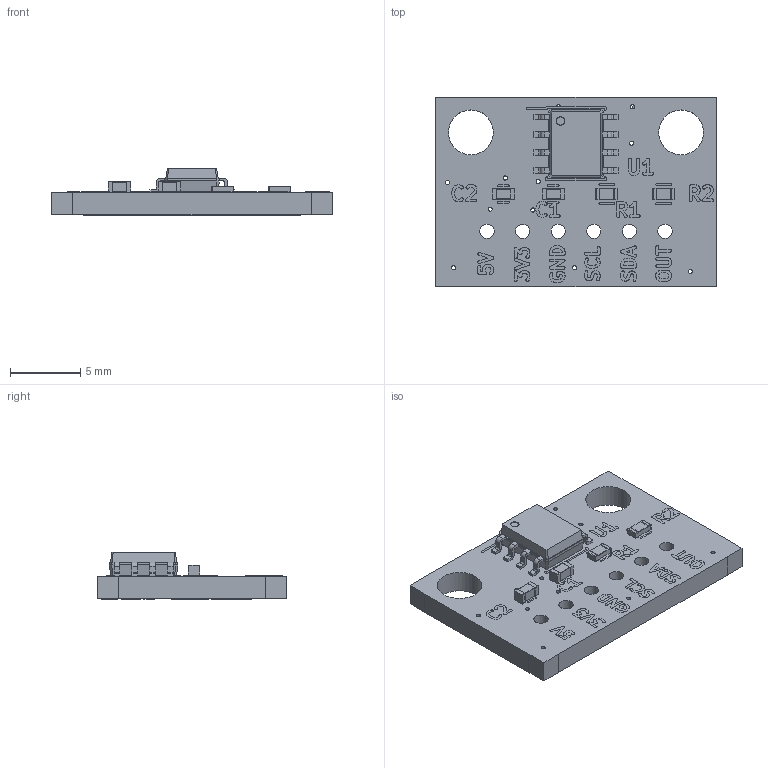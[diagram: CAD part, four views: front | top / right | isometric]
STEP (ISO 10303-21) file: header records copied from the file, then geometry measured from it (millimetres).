
FILE_DESCRIPTION(('FreeCAD Model'),'2;1');
FILE_NAME('C:/ws/GitHub/AS5600_BreakoutBoard_V1_0/PCB_source/step/AS5600_BreakoutBoard_V1_0.step','2021-09-18T11:27:16',(''),(''), 'Open CASCADE STEP processor 7.3','FreeCAD','Unknown');
FILE_SCHEMA(('AUTOMOTIVE_DESIGN { 1 0 10303 214 1 1 1 1 }'));
Length unit declared in the file: millimetre
Products named in the file (14): AS5600_BreakoutBoard_V1_0; Board_Geoms_93af; Local_CS_93af; Pcb_93af; PCB_Sketch_93af; botSilks_603b; topSilks_a1fd; Step_Models_93af; Top_93af; C1_C_0603_1608Metric_6145B387; C2_C_0603_1608Metric_6145B397; R1_R_0603_1608Metric_6145B3B4; R2_R_0603_1608Metric_6145B3C4; U1_SOIC_8_39x49mm_P127mm_6145B3D4
Assembly tree (13 placements, depth 4):
  AS5600_BreakoutBoard_V1_0
    Board_Geoms_93af
      Local_CS_93af
      Pcb_93af
      PCB_Sketch_93af
      botSilks_603b
      topSilks_a1fd
    Step_Models_93af
      Top_93af
        C1_C_0603_1608Metric_6145B387
        C2_C_0603_1608Metric_6145B397
        R1_R_0603_1608Metric_6145B3B4
        R2_R_0603_1608Metric_6145B3C4
        U1_SOIC_8_39x49mm_P127mm_6145B3D4
Bounding box: 20 x 13.5 x 3.42 mm (x, y, z)
Volume: 430.1 mm3; surface area: 825.7 mm2
Topology: 6 solids, 74 shells, 367 faces, 10712 edges, 10442 vertices
Faces by surface type: plane 241, cylinder 94, bspline 32
Full cylindrical faces by diameter (mm): 0.3 x13, 0.6 x1, 1.02 x6, 3.2 x2
Entity records: 92061 total; most frequent: CARTESIAN_POINT 21671, DIRECTION 11572, ORIENTED_EDGE 11488, EDGE_CURVE 10706, LINE 10498, VECTOR 10498, VERTEX_POINT 10420, AXIS2_PLACEMENT_3D 537
